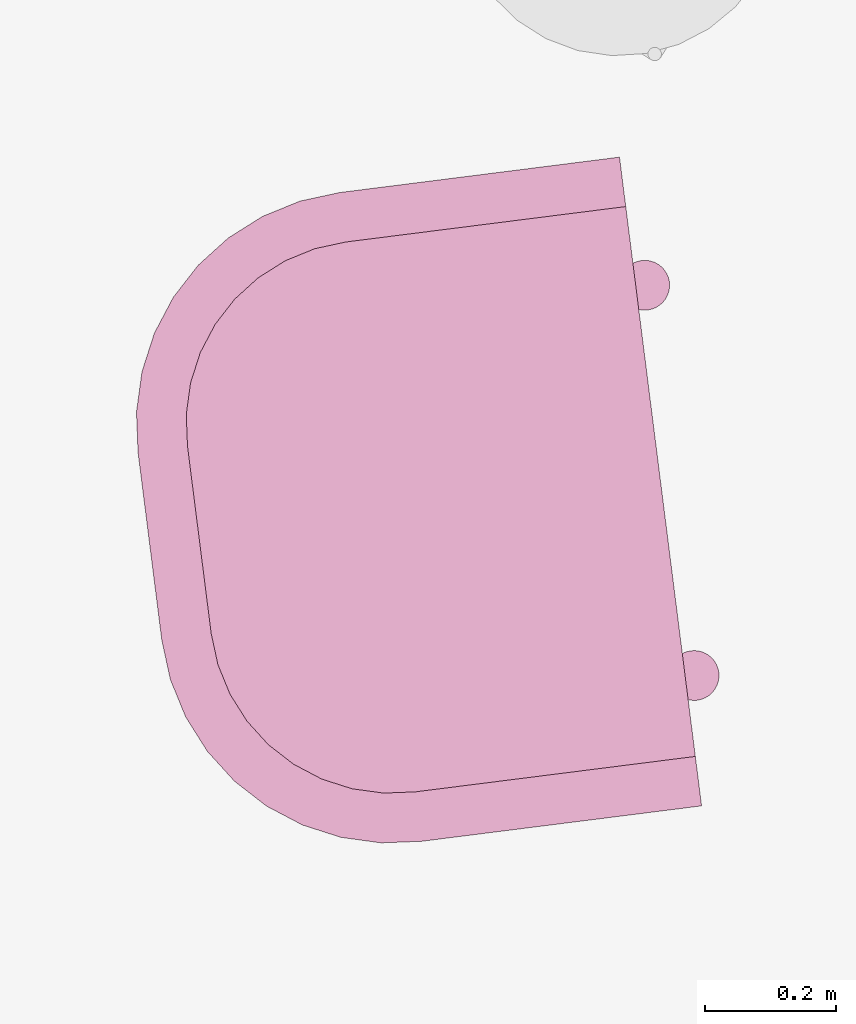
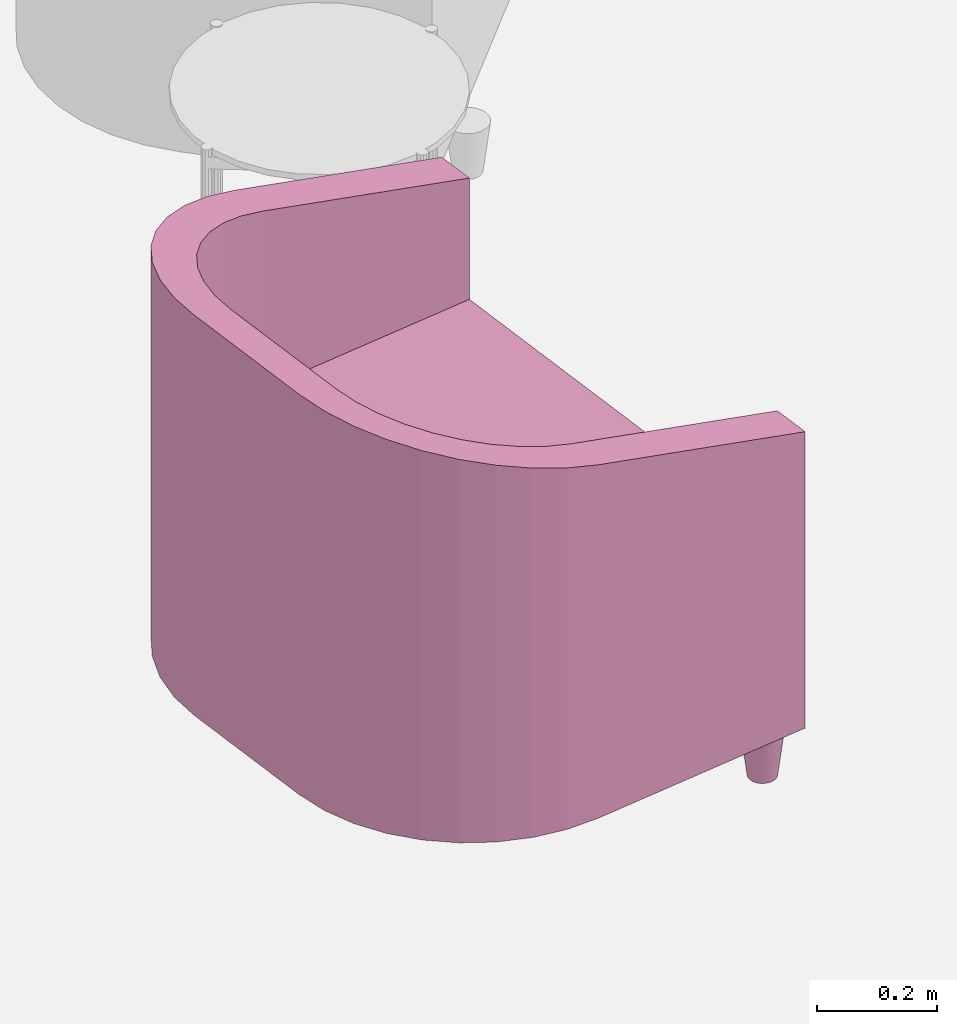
# One storey, part 20 of 36: 1 furnishing.
"""IFC2X3 building model written with IfcOpenShell, lengths in metres."""

from ifc_helpers import new_model, entity, si_unit, converted_unit, derived_unit, money_unit, direction, frame, origin_with_axes, place, context, subcontext, project, spatial, faceted_brep, source, transform, mapped, type_object, element, save


model = new_model("IFC2X3")

# Units and contexts
model_context = context("Model", 3, precision=1e-05, world=origin_with_axes(), true_north=direction((0.0, 1.0)))
body_context = subcontext(model_context, "Body", "Model", "MODEL_VIEW")
ifc_project = project(units=[si_unit("LENGTHUNIT", "METRE"), si_unit("AREAUNIT", "SQUARE_METRE"), si_unit("VOLUMEUNIT", "CUBIC_METRE"), converted_unit("PLANEANGLEUNIT", "DEGREE", entity("IfcPlaneAngleMeasure", 0.0174532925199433), si_unit("PLANEANGLEUNIT", "RADIAN"), dimensions=[0, 0, 0, 0, 0, 0, 0]), money_unit("EUR"), converted_unit("TIMEUNIT", "Year", entity("IfcTimeMeasure", 31556926.0), si_unit("TIMEUNIT", "SECOND"), dimensions=[0, 0, 1, 0, 0, 0, 0]), si_unit("MASSUNIT", "GRAM", prefix="KILO"), si_unit("THERMODYNAMICTEMPERATUREUNIT", "DEGREE_CELSIUS"), si_unit("LUMINOUSINTENSITYUNIT", "LUMEN"), si_unit("ENERGYUNIT", "JOULE", prefix="MEGA"), derived_unit("THERMALCONDUCTANCEUNIT", [(si_unit("POWERUNIT", "WATT"), 1), (si_unit("LENGTHUNIT", "METRE"), -1), (si_unit("THERMODYNAMICTEMPERATUREUNIT", "KELVIN"), -1)]), derived_unit("SPECIFICHEATCAPACITYUNIT", [(si_unit("ENERGYUNIT", "JOULE"), 1), (si_unit("MASSUNIT", "GRAM", prefix="KILO"), -1), (si_unit("THERMODYNAMICTEMPERATUREUNIT", "KELVIN"), -1)]), derived_unit("MASSDENSITYUNIT", [(si_unit("MASSUNIT", "GRAM", prefix="KILO"), 1), (si_unit("VOLUMEUNIT", "CUBIC_METRE"), -1)])], contexts=[model_context])

# Site, building, storey
site_placement = place(None, frame((-3.949935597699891, 1.740105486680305, 0.0), z_axis=(0.0, 0.0, 1.0), x_axis=(0.8799804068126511, -0.475009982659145, 0.0)))
site = spatial("IfcSite", under=ifc_project, at=site_placement, Name="Gelände", CompositionType="ELEMENT")
building_placement = place(site_placement, origin_with_axes())
building = spatial("IfcBuilding", under=site, at=building_placement, Name="Gebäude", CompositionType="ELEMENT")
storey_placement = place(building_placement, origin_with_axes())
storey = spatial("IfcBuildingStorey", under=building, at=storey_placement, Name="Erdgeschoss", CompositionType="ELEMENT", Elevation=0.0)

# Furnishing
furniture_type = type_object("IfcFurnitureType", Name="bucket chair (1)", AssemblyPlace="NOTDEFINED")
shared_shape = source(origin_with_axes(), body_context, "Body", "Brep", [
    faceted_brep([(-0.47421411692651, 0.73188933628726, 0.0), (-0.4867211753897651, 0.72968400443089, 0.1016), (-0.4873, 0.7363000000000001, 0.1016), (-0.4746, 0.7363000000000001, 0.0), (-0.473068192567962, 0.7276126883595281, 0.0), (-0.485002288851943, 0.7232690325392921, 0.1016), (-0.482195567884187, 0.71725, 0.1016), (-0.478386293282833, 0.711809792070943, 0.1016), (-0.4736902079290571, 0.707113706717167, 0.1016), (-0.4682499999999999, 0.7033044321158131, 0.1016), (-0.462230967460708, 0.700497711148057, 0.1016), (-0.45581599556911, 0.698778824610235, 0.1016), (-0.4492, 0.6982000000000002, 0.1016), (-0.44258400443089, 0.698778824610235, 0.1016), (-0.436169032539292, 0.700497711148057, 0.1016), (-0.43015, 0.703304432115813, 0.1016), (-0.4247097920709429, 0.707113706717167, 0.1016), (-0.420013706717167, 0.711809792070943, 0.1016), (-0.4162044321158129, 0.71725, 0.1016), (-0.4133977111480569, 0.7232690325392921, 0.1016), (-0.4116788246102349, 0.72968400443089, 0.1016), (-0.4111, 0.7363000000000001, 0.1016), (-0.4116788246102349, 0.7429159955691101, 0.1016), (-0.4133977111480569, 0.749330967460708, 0.1016), (-0.4162044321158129, 0.7553500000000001, 0.1016), (-0.420013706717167, 0.7607902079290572, 0.1016), (-0.4247097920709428, 0.7654862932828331, 0.1016), (-0.43015, 0.7692955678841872, 0.1016), (-0.436169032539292, 0.7721022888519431, 0.1016), (-0.44258400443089, 0.7738211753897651, 0.1016), (-0.4492, 0.7744000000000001, 0.1016), (-0.45581599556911, 0.7738211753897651, 0.1016), (-0.462230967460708, 0.7721022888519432, 0.1016), (-0.46825, 0.7692955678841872, 0.1016), (-0.4736902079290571, 0.7654862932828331, 0.1016), (-0.4783862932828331, 0.7607902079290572, 0.1016), (-0.4821955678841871, 0.7553500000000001, 0.1016), (-0.4850022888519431, 0.749330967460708, 0.1016), (-0.4867211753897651, 0.7429159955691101, 0.1016), (-0.4742141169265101, 0.7407106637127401, 0.0), (-0.4730681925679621, 0.744987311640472, 0.0), (-0.4711970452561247, 0.7490000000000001, 0.0), (-0.468657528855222, 0.7526268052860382, 0.0), (-0.4655268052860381, 0.7557575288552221, 0.0), (-0.4619, 0.7582970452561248, 0.0), (-0.457887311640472, 0.7601681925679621, 0.0), (-0.45361066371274, 0.7613141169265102, 0.0), (-0.4492, 0.7617, 0.0), (-0.44478933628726, 0.7613141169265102, 0.0), (-0.440512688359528, 0.7601681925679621, 0.0), (-0.4365, 0.7582970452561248, 0.0), (-0.4328731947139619, 0.7557575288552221, 0.0), (-0.429742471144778, 0.7526268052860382, 0.0), (-0.4272029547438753, 0.7490000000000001, 0.0), (-0.4253318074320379, 0.744987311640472, 0.0), (-0.4241858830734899, 0.7407106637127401, 0.0), (-0.4238, 0.7363000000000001, 0.0), (-0.4241858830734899, 0.73188933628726, 0.0), (-0.4253318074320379, 0.7276126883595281, 0.0), (-0.4272029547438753, 0.7236000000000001, 0.0), (-0.429742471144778, 0.719973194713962, 0.0), (-0.4328731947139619, 0.7168424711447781, 0.0), (-0.4365, 0.7143029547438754, 0.0), (-0.440512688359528, 0.712431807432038, 0.0), (-0.44478933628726, 0.71128588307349, 0.0), (-0.4492, 0.7109000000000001, 0.0), (-0.45361066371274, 0.71128588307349, 0.0), (-0.457887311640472, 0.712431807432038, 0.0), (-0.4619, 0.7143029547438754, 0.0), (-0.4655268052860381, 0.7168424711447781, 0.0), (-0.468657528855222, 0.719973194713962, 0.0), (-0.4711970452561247, 0.7236000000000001, 0.0)], [[[0, 1, 2, 3]], [[4, 5, 1, 0]], [[1, 5, 6, 7, 8, 9, 10, 11, 12, 13, 14, 15, 16, 17, 18, 19, 20, 21, 22, 23, 24, 25, 26, 27, 28, 29, 30, 31, 32, 33, 34, 35, 36, 37, 38, 2]], [[3, 2, 38, 39]], [[0, 3, 39, 40, 41, 42, 43, 44, 45, 46, 47, 48, 49, 50, 51, 52, 53, 54, 55, 56, 57, 58, 59, 60, 61, 62, 63, 64, 65, 66, 67, 68, 69, 70, 71, 4]], [[71, 6, 5, 4]], [[70, 7, 6, 71]], [[69, 8, 7, 70]], [[68, 9, 8, 69]], [[67, 10, 9, 68]], [[66, 11, 10, 67]], [[65, 12, 11, 66]], [[64, 13, 12, 65]], [[63, 14, 13, 64]], [[62, 15, 14, 63]], [[61, 16, 15, 62]], [[60, 17, 16, 61]], [[59, 18, 17, 60]], [[58, 19, 18, 59]], [[57, 20, 19, 58]], [[56, 21, 20, 57]], [[55, 22, 21, 56]], [[54, 23, 22, 55]], [[53, 24, 23, 54]], [[52, 25, 24, 53]], [[51, 26, 25, 52]], [[50, 27, 26, 51]], [[49, 28, 27, 50]], [[48, 29, 28, 49]], [[47, 30, 29, 48]], [[46, 31, 30, 47]], [[45, 32, 31, 46]], [[44, 33, 32, 45]], [[43, 34, 33, 44]], [[42, 35, 34, 43]], [[41, 36, 35, 42]], [[40, 37, 36, 41]], [[39, 38, 37, 40]]]),
    faceted_brep([(0.42418588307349, 0.73188933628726, 0.0), (0.4116788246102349, 0.72968400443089, 0.1016), (0.4111, 0.7363000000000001, 0.1016), (0.4238, 0.7363000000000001, 0.0), (0.425331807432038, 0.7276126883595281, 0.0), (0.413397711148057, 0.7232690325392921, 0.1016), (0.4162044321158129, 0.71725, 0.1016), (0.420013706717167, 0.711809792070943, 0.1016), (0.4247097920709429, 0.707113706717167, 0.1016), (0.43015, 0.7033044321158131, 0.1016), (0.436169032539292, 0.700497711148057, 0.1016), (0.44258400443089, 0.698778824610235, 0.1016), (0.4492, 0.6982000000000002, 0.1016), (0.45581599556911, 0.698778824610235, 0.1016), (0.462230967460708, 0.700497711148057, 0.1016), (0.4682499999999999, 0.703304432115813, 0.1016), (0.4736902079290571, 0.707113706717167, 0.1016), (0.478386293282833, 0.711809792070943, 0.1016), (0.482195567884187, 0.71725, 0.1016), (0.4850022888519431, 0.7232690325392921, 0.1016), (0.4867211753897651, 0.72968400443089, 0.1016), (0.4873, 0.7363000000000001, 0.1016), (0.4867211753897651, 0.7429159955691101, 0.1016), (0.4850022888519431, 0.749330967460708, 0.1016), (0.482195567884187, 0.7553500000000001, 0.1016), (0.478386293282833, 0.7607902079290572, 0.1016), (0.4736902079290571, 0.7654862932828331, 0.1016), (0.4682499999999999, 0.7692955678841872, 0.1016), (0.462230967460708, 0.7721022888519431, 0.1016), (0.45581599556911, 0.7738211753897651, 0.1016), (0.4492, 0.7744000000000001, 0.1016), (0.44258400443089, 0.7738211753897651, 0.1016), (0.436169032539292, 0.7721022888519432, 0.1016), (0.43015, 0.7692955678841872, 0.1016), (0.4247097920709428, 0.7654862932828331, 0.1016), (0.4200137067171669, 0.7607902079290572, 0.1016), (0.4162044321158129, 0.7553500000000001, 0.1016), (0.4133977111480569, 0.749330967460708, 0.1016), (0.4116788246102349, 0.7429159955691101, 0.1016), (0.4241858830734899, 0.7407106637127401, 0.0), (0.4253318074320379, 0.744987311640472, 0.0), (0.4272029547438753, 0.7490000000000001, 0.0), (0.4297424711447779, 0.7526268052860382, 0.0), (0.4328731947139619, 0.7557575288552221, 0.0), (0.4365, 0.7582970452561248, 0.0), (0.440512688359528, 0.7601681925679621, 0.0), (0.44478933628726, 0.7613141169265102, 0.0), (0.4492, 0.7617, 0.0), (0.45361066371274, 0.7613141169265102, 0.0), (0.457887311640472, 0.7601681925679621, 0.0), (0.4619, 0.7582970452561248, 0.0), (0.4655268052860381, 0.7557575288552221, 0.0), (0.468657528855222, 0.7526268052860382, 0.0), (0.4711970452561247, 0.7490000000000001, 0.0), (0.4730681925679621, 0.744987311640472, 0.0), (0.4742141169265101, 0.7407106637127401, 0.0), (0.4746, 0.7363000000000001, 0.0), (0.4742141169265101, 0.73188933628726, 0.0), (0.4730681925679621, 0.7276126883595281, 0.0), (0.4711970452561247, 0.7236000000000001, 0.0), (0.468657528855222, 0.719973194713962, 0.0), (0.4655268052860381, 0.7168424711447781, 0.0), (0.4619, 0.7143029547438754, 0.0), (0.457887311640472, 0.712431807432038, 0.0), (0.45361066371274, 0.71128588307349, 0.0), (0.4492, 0.7109000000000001, 0.0), (0.44478933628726, 0.71128588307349, 0.0), (0.440512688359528, 0.712431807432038, 0.0), (0.4365, 0.7143029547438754, 0.0), (0.4328731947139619, 0.7168424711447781, 0.0), (0.429742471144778, 0.719973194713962, 0.0), (0.4272029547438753, 0.7236000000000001, 0.0)], [[[0, 1, 2, 3]], [[4, 5, 1, 0]], [[1, 5, 6, 7, 8, 9, 10, 11, 12, 13, 14, 15, 16, 17, 18, 19, 20, 21, 22, 23, 24, 25, 26, 27, 28, 29, 30, 31, 32, 33, 34, 35, 36, 37, 38, 2]], [[3, 2, 38, 39]], [[0, 3, 39, 40, 41, 42, 43, 44, 45, 46, 47, 48, 49, 50, 51, 52, 53, 54, 55, 56, 57, 58, 59, 60, 61, 62, 63, 64, 65, 66, 67, 68, 69, 70, 71, 4]], [[71, 6, 5, 4]], [[70, 7, 6, 71]], [[69, 8, 7, 70]], [[68, 9, 8, 69]], [[67, 10, 9, 68]], [[66, 11, 10, 67]], [[65, 12, 11, 66]], [[64, 13, 12, 65]], [[63, 14, 13, 64]], [[62, 15, 14, 63]], [[61, 16, 15, 62]], [[60, 17, 16, 61]], [[59, 18, 17, 60]], [[58, 19, 18, 59]], [[57, 20, 19, 58]], [[56, 21, 20, 57]], [[55, 22, 21, 56]], [[54, 23, 22, 55]], [[53, 24, 23, 54]], [[52, 25, 24, 53]], [[51, 26, 25, 52]], [[50, 27, 26, 51]], [[49, 28, 27, 50]], [[48, 29, 28, 49]], [[47, 30, 29, 48]], [[46, 31, 30, 47]], [[45, 32, 31, 46]], [[44, 33, 32, 45]], [[43, 34, 33, 44]], [[42, 35, 34, 43]], [[41, 36, 35, 42]], [[40, 37, 36, 41]], [[39, 38, 37, 40]]]),
    faceted_brep([(-0.3258141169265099, 0.7963893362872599, 0.0), (-0.338321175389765, 0.7941840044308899, 0.1016), (-0.3388999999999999, 0.8008, 0.1016), (-0.3261999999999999, 0.8008, 0.0), (-0.3246681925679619, 0.792112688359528, 0.0), (-0.3366022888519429, 0.787769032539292, 0.1016), (-0.333795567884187, 0.78175, 0.1016), (-0.3299862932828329, 0.7763097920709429, 0.1016), (-0.325290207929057, 0.7716137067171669, 0.1016), (-0.3198499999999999, 0.767804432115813, 0.1016), (-0.3138309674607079, 0.7649977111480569, 0.1016), (-0.3074159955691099, 0.7632788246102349, 0.1016), (-0.3007999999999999, 0.7627, 0.1016), (-0.2941840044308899, 0.7632788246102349, 0.1016), (-0.2877690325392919, 0.7649977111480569, 0.1016), (-0.2817499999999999, 0.7678044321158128, 0.1016), (-0.2763097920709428, 0.7716137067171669, 0.1016), (-0.2716137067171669, 0.7763097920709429, 0.1016), (-0.2678044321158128, 0.78175, 0.1016), (-0.2649977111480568, 0.787769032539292, 0.1016), (-0.2632788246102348, 0.7941840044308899, 0.1016), (-0.2626999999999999, 0.8008, 0.1016), (-0.2632788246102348, 0.80741599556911, 0.1016), (-0.2649977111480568, 0.8138309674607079, 0.1016), (-0.2678044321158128, 0.81985, 0.1016), (-0.2716137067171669, 0.825290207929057, 0.1016), (-0.2763097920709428, 0.829986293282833, 0.1016), (-0.2817499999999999, 0.8337955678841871, 0.1016), (-0.2877690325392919, 0.8366022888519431, 0.1016), (-0.2941840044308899, 0.838321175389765, 0.1016), (-0.3007999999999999, 0.8389, 0.1016), (-0.3074159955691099, 0.838321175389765, 0.1016), (-0.3138309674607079, 0.8366022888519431, 0.1016), (-0.3198499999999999, 0.8337955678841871, 0.1016), (-0.3252902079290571, 0.829986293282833, 0.1016), (-0.329986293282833, 0.825290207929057, 0.1016), (-0.333795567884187, 0.81985, 0.1016), (-0.336602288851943, 0.8138309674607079, 0.1016), (-0.338321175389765, 0.80741599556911, 0.1016), (-0.32581411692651, 0.80521066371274, 0.0), (-0.324668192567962, 0.8094873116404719, 0.0), (-0.3227970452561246, 0.8135, 0.0), (-0.320257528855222, 0.8171268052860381, 0.0), (-0.317126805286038, 0.820257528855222, 0.0), (-0.3134999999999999, 0.8227970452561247, 0.0), (-0.3094873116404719, 0.824668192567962, 0.0), (-0.3052106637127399, 0.8258141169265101, 0.0), (-0.3007999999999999, 0.8261999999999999, 0.0), (-0.2963893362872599, 0.8258141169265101, 0.0), (-0.2921126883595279, 0.824668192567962, 0.0), (-0.2880999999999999, 0.8227970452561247, 0.0), (-0.2844731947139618, 0.820257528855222, 0.0), (-0.2813424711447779, 0.8171268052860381, 0.0), (-0.2788029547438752, 0.8135, 0.0), (-0.2769318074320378, 0.8094873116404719, 0.0), (-0.2757858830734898, 0.80521066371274, 0.0), (-0.2753999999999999, 0.8008, 0.0), (-0.2757858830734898, 0.7963893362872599, 0.0), (-0.2769318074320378, 0.792112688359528, 0.0), (-0.2788029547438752, 0.7881, 0.0), (-0.2813424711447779, 0.7844731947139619, 0.0), (-0.2844731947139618, 0.781342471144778, 0.0), (-0.2880999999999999, 0.7788029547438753, 0.0), (-0.2921126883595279, 0.7769318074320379, 0.0), (-0.2963893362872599, 0.77578588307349, 0.0), (-0.3007999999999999, 0.7754, 0.0), (-0.3052106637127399, 0.77578588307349, 0.0), (-0.3094873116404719, 0.7769318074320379, 0.0), (-0.3134999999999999, 0.7788029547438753, 0.0), (-0.317126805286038, 0.781342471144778, 0.0), (-0.3202575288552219, 0.7844731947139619, 0.0), (-0.3227970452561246, 0.7881, 0.0)], [[[0, 1, 2, 3]], [[4, 5, 1, 0]], [[1, 5, 6, 7, 8, 9, 10, 11, 12, 13, 14, 15, 16, 17, 18, 19, 20, 21, 22, 23, 24, 25, 26, 27, 28, 29, 30, 31, 32, 33, 34, 35, 36, 37, 38, 2]], [[3, 2, 38, 39]], [[0, 3, 39, 40, 41, 42, 43, 44, 45, 46, 47, 48, 49, 50, 51, 52, 53, 54, 55, 56, 57, 58, 59, 60, 61, 62, 63, 64, 65, 66, 67, 68, 69, 70, 71, 4]], [[71, 6, 5, 4]], [[70, 7, 6, 71]], [[69, 8, 7, 70]], [[68, 9, 8, 69]], [[67, 10, 9, 68]], [[66, 11, 10, 67]], [[65, 12, 11, 66]], [[64, 13, 12, 65]], [[63, 14, 13, 64]], [[62, 15, 14, 63]], [[61, 16, 15, 62]], [[60, 17, 16, 61]], [[59, 18, 17, 60]], [[58, 19, 18, 59]], [[57, 20, 19, 58]], [[56, 21, 20, 57]], [[55, 22, 21, 56]], [[54, 23, 22, 55]], [[53, 24, 23, 54]], [[52, 25, 24, 53]], [[51, 26, 25, 52]], [[50, 27, 26, 51]], [[49, 28, 27, 50]], [[48, 29, 28, 49]], [[47, 30, 29, 48]], [[46, 31, 30, 47]], [[45, 32, 31, 46]], [[44, 33, 32, 45]], [[43, 34, 33, 44]], [[42, 35, 34, 43]], [[41, 36, 35, 42]], [[40, 37, 36, 41]], [[39, 38, 37, 40]]]),
    faceted_brep([(0.2757858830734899, 0.7963893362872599, 0.0), (0.2632788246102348, 0.7941840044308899, 0.1016), (0.2626999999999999, 0.8008, 0.1016), (0.2753999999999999, 0.8008, 0.0), (0.2769318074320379, 0.792112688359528, 0.0), (0.2649977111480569, 0.787769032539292, 0.1016), (0.2678044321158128, 0.78175, 0.1016), (0.2716137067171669, 0.7763097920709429, 0.1016), (0.2763097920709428, 0.7716137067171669, 0.1016), (0.2817499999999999, 0.767804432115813, 0.1016), (0.2877690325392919, 0.7649977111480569, 0.1016), (0.2941840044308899, 0.7632788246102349, 0.1016), (0.3007999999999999, 0.7627, 0.1016), (0.3074159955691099, 0.7632788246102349, 0.1016), (0.3138309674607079, 0.7649977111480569, 0.1016), (0.3198499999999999, 0.7678044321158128, 0.1016), (0.325290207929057, 0.7716137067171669, 0.1016), (0.3299862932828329, 0.7763097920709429, 0.1016), (0.333795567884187, 0.78175, 0.1016), (0.336602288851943, 0.787769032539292, 0.1016), (0.338321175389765, 0.7941840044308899, 0.1016), (0.3388999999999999, 0.8008, 0.1016), (0.338321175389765, 0.80741599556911, 0.1016), (0.336602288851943, 0.8138309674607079, 0.1016), (0.333795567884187, 0.81985, 0.1016), (0.3299862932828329, 0.825290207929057, 0.1016), (0.3252902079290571, 0.829986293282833, 0.1016), (0.3198499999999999, 0.8337955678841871, 0.1016), (0.3138309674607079, 0.8366022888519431, 0.1016), (0.3074159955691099, 0.838321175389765, 0.1016), (0.3007999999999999, 0.8389, 0.1016), (0.2941840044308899, 0.838321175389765, 0.1016), (0.2877690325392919, 0.8366022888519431, 0.1016), (0.2817499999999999, 0.8337955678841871, 0.1016), (0.2763097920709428, 0.829986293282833, 0.1016), (0.2716137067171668, 0.825290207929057, 0.1016), (0.2678044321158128, 0.81985, 0.1016), (0.2649977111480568, 0.8138309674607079, 0.1016), (0.2632788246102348, 0.80741599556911, 0.1016), (0.2757858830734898, 0.80521066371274, 0.0), (0.2769318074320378, 0.8094873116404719, 0.0), (0.2788029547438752, 0.8135, 0.0), (0.2813424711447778, 0.8171268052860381, 0.0), (0.2844731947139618, 0.820257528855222, 0.0), (0.2880999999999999, 0.8227970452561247, 0.0), (0.2921126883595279, 0.824668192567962, 0.0), (0.2963893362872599, 0.8258141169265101, 0.0), (0.3007999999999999, 0.8261999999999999, 0.0), (0.3052106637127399, 0.8258141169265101, 0.0), (0.3094873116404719, 0.824668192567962, 0.0), (0.3134999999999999, 0.8227970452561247, 0.0), (0.317126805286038, 0.820257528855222, 0.0), (0.3202575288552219, 0.8171268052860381, 0.0), (0.3227970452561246, 0.8135, 0.0), (0.324668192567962, 0.8094873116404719, 0.0), (0.32581411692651, 0.80521066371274, 0.0), (0.3261999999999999, 0.8008, 0.0), (0.32581411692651, 0.7963893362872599, 0.0), (0.324668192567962, 0.792112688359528, 0.0), (0.3227970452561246, 0.7881, 0.0), (0.3202575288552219, 0.7844731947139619, 0.0), (0.317126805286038, 0.781342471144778, 0.0), (0.3134999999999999, 0.7788029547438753, 0.0), (0.3094873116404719, 0.7769318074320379, 0.0), (0.3052106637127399, 0.77578588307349, 0.0), (0.3007999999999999, 0.7754, 0.0), (0.2963893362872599, 0.77578588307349, 0.0), (0.2921126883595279, 0.7769318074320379, 0.0), (0.2880999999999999, 0.7788029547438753, 0.0), (0.2844731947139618, 0.781342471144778, 0.0), (0.2813424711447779, 0.7844731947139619, 0.0), (0.2788029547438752, 0.7881, 0.0)], [[[0, 1, 2, 3]], [[4, 5, 1, 0]], [[1, 5, 6, 7, 8, 9, 10, 11, 12, 13, 14, 15, 16, 17, 18, 19, 20, 21, 22, 23, 24, 25, 26, 27, 28, 29, 30, 31, 32, 33, 34, 35, 36, 37, 38, 2]], [[3, 2, 38, 39]], [[0, 3, 39, 40, 41, 42, 43, 44, 45, 46, 47, 48, 49, 50, 51, 52, 53, 54, 55, 56, 57, 58, 59, 60, 61, 62, 63, 64, 65, 66, 67, 68, 69, 70, 71, 4]], [[71, 6, 5, 4]], [[70, 7, 6, 71]], [[69, 8, 7, 70]], [[68, 9, 8, 69]], [[67, 10, 9, 68]], [[66, 11, 10, 67]], [[65, 12, 11, 66]], [[64, 13, 12, 65]], [[63, 14, 13, 64]], [[62, 15, 14, 63]], [[61, 16, 15, 62]], [[60, 17, 16, 61]], [[59, 18, 17, 60]], [[58, 19, 18, 59]], [[57, 20, 19, 58]], [[56, 21, 20, 57]], [[55, 22, 21, 56]], [[54, 23, 22, 55]], [[53, 24, 23, 54]], [[52, 25, 24, 53]], [[51, 26, 25, 52]], [[50, 27, 26, 51]], [[49, 28, 27, 50]], [[48, 29, 28, 49]], [[47, 30, 29, 48]], [[46, 31, 30, 47]], [[45, 32, 31, 46]], [[44, 33, 32, 45]], [[43, 34, 33, 44]], [[42, 35, 34, 43]], [[41, 36, 35, 42]], [[40, 37, 36, 41]], [[39, 38, 37, 40]]]),
    faceted_brep([(0.5, 0.7871, 0.1016), (0.5, 0.7871, 0.7034971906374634), (0.5, 0.3556, 0.8191172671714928), (0.5, 0.3556, 0.1016), (0.4238, 0.7871, 0.1016), (0.4238, 0.7871, 0.7034971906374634), (0.4238, 0.3556000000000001, 0.8191172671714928), (0.4195552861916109, 0.3070826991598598, 0.8321174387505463), (0.4069501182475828, 0.2600395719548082, 0.8447226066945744), (0.3863674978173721, 0.2159000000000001, 0.8565497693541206), (0.3584328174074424, 0.176005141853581, 0.8672395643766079), (0.323994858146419, 0.1415671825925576, 0.8764671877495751), (0.2841, 0.1136325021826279, 0.8839522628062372), (0.2399604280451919, 0.09304988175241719, 0.8894673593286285), (0.1929173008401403, 0.08044471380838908, 0.8928449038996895), (0.1444, 0.0762, 0.8939822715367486), (-0.1444000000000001, 0.07620000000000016, 0.8939822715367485), (-0.1929173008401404, 0.08044471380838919, 0.8928449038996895), (-0.2399604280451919, 0.0930498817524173, 0.8894673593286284), (-0.2841, 0.1136325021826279, 0.8839522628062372), (-0.3239948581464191, 0.1415671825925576, 0.8764671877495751), (-0.3584328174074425, 0.176005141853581, 0.8672395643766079), (-0.3863674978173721, 0.2159000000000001, 0.8565497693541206), (-0.4069501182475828, 0.2600395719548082, 0.8447226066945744), (-0.4195552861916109, 0.3070826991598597, 0.8321174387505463), (-0.4238, 0.3556, 0.8191172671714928), (-0.4238, 0.7871, 0.7034971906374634), (-0.5, 0.7871, 0.7034971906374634), (-0.4999999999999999, 0.3555999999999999, 0.8191172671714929), (-0.494597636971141, 0.2938507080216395, 0.8356629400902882), (-0.4785546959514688, 0.2339776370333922, 0.8517058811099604), (-0.4523586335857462, 0.1778, 0.8667586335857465), (-0.4168054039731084, 0.1270247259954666, 0.8803638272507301), (-0.3729752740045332, 0.08319459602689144, 0.8921080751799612), (-0.3221999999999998, 0.04764136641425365, 0.9016345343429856), (-0.2660223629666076, 0.02144530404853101, 0.9086537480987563), (-0.2061492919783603, 0.005402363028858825, 0.9129524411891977), (-0.1444, 0.0, 0.9144000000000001), (0.0, 0.0, 0.9144000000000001), (0.1444000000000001, 0.0, 0.9144000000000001), (0.2061492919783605, 0.005402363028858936, 0.9129524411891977), (0.2660223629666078, 0.02144530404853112, 0.9086537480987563), (0.3222, 0.04764136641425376, 0.9016345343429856), (0.3729752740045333, 0.08319459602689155, 0.892108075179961), (0.4168054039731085, 0.1270247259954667, 0.8803638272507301), (0.4523586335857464, 0.1778000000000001, 0.8667586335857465), (0.4785546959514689, 0.2339776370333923, 0.8517058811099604), (0.4945976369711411, 0.2938507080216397, 0.8356629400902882), (0.4945976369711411, 0.2938507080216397, 0.1016), (0.4785546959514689, 0.2339776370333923, 0.1016), (0.4523586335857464, 0.1778000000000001, 0.1016), (0.4168054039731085, 0.1270247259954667, 0.1016), (0.3729752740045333, 0.08319459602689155, 0.1016), (0.3222, 0.04764136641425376, 0.1016), (0.2660223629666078, 0.02144530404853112, 0.1016), (0.2061492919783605, 0.005402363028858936, 0.1016), (0.1444000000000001, 0.0, 0.1016), (0.0, 0.0, 0.1016), (-0.1444, 0.0, 0.1016), (-0.2061492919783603, 0.005402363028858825, 0.1016), (-0.2660223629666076, 0.02144530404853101, 0.1016), (-0.3221999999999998, 0.04764136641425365, 0.1016), (-0.3729752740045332, 0.08319459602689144, 0.1016), (-0.4168054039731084, 0.1270247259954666, 0.1016), (-0.4523586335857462, 0.1778, 0.1016), (-0.4785546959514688, 0.2339776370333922, 0.1016), (-0.494597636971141, 0.2938507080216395, 0.1016), (-0.4999999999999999, 0.3555999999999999, 0.1016), (-0.5, 0.7871, 0.1016), (-0.4238, 0.7871, 0.1016), (-0.4238, 0.3556, 0.1016), (-0.4195552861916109, 0.3070826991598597, 0.1016), (-0.4069501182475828, 0.2600395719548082, 0.1016), (-0.3863674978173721, 0.2159000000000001, 0.1016), (-0.3584328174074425, 0.176005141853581, 0.1016), (-0.3239948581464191, 0.1415671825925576, 0.1016), (-0.2841, 0.1136325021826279, 0.1016), (-0.2399604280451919, 0.0930498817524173, 0.1016), (-0.1929173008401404, 0.08044471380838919, 0.1016), (-0.1444000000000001, 0.07620000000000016, 0.1016), (0.1444, 0.0762, 0.1016), (0.1929173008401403, 0.08044471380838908, 0.1016), (0.2399604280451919, 0.09304988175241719, 0.1016), (0.2841, 0.1136325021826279, 0.1016), (0.323994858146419, 0.1415671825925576, 0.1016), (0.3584328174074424, 0.176005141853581, 0.1016), (0.3863674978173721, 0.2159000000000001, 0.1016), (0.4069501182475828, 0.2600395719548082, 0.1016), (0.4195552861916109, 0.3070826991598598, 0.1016), (0.4238, 0.3556000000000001, 0.1016)], [[[0, 1, 2, 3]], [[4, 5, 1, 0]], [[1, 5, 6, 7, 8, 9, 10, 11, 12, 13, 14, 15, 16, 17, 18, 19, 20, 21, 22, 23, 24, 25, 26, 27, 28, 29, 30, 31, 32, 33, 34, 35, 36, 37, 38, 39, 40, 41, 42, 43, 44, 45, 46, 47, 2]], [[3, 2, 47, 48]], [[0, 3, 48, 49, 50, 51, 52, 53, 54, 55, 56, 57, 58, 59, 60, 61, 62, 63, 64, 65, 66, 67, 68, 69, 70, 71, 72, 73, 74, 75, 76, 77, 78, 79, 80, 81, 82, 83, 84, 85, 86, 87, 88, 89, 4]], [[89, 6, 5, 4]], [[88, 7, 6, 89]], [[87, 8, 7, 88]], [[86, 9, 8, 87]], [[85, 10, 9, 86]], [[84, 11, 10, 85]], [[83, 12, 11, 84]], [[82, 13, 12, 83]], [[81, 14, 13, 82]], [[80, 15, 14, 81]], [[79, 16, 15, 80]], [[78, 17, 16, 79]], [[77, 18, 17, 78]], [[76, 19, 18, 77]], [[75, 20, 19, 76]], [[74, 21, 20, 75]], [[73, 22, 21, 74]], [[72, 23, 22, 73]], [[71, 24, 23, 72]], [[70, 25, 24, 71]], [[69, 26, 25, 70]], [[68, 27, 26, 69]], [[67, 28, 27, 68]], [[66, 29, 28, 67]], [[65, 30, 29, 66]], [[64, 31, 30, 65]], [[63, 32, 31, 64]], [[62, 33, 32, 63]], [[61, 34, 33, 62]], [[60, 35, 34, 61]], [[59, 36, 35, 60]], [[58, 37, 36, 59]], [[57, 38, 37, 58]], [[56, 39, 38, 57]], [[55, 40, 39, 56]], [[54, 41, 40, 55]], [[53, 42, 41, 54]], [[52, 43, 42, 53]], [[51, 44, 43, 52]], [[50, 45, 44, 51]], [[49, 46, 45, 50]], [[48, 47, 46, 49]]]),
    faceted_brep([(0.4238, 0.7871, 0.1016), (0.4238, 0.7871, 0.4572000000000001), (0.4238, 0.3556000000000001, 0.4572000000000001), (0.4238, 0.3556000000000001, 0.1016), (-0.4238, 0.7871, 0.1016), (-0.4238, 0.7871, 0.4572000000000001), (-0.4238, 0.3556, 0.4572000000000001), (-0.4195552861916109, 0.3070826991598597, 0.4572000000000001), (-0.4069501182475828, 0.2600395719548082, 0.4572000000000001), (-0.3863674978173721, 0.2159000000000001, 0.4572000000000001), (-0.3584328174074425, 0.176005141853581, 0.4572000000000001), (-0.3239948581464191, 0.1415671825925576, 0.4572000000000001), (-0.2841, 0.1136325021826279, 0.4572000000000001), (-0.2399604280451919, 0.0930498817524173, 0.4572000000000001), (-0.1929173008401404, 0.08044471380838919, 0.4572000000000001), (-0.1444000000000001, 0.07620000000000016, 0.4572000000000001), (0.1444, 0.0762, 0.4572000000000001), (0.1929173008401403, 0.08044471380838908, 0.4572000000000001), (0.2399604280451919, 0.09304988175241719, 0.4572000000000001), (0.2841, 0.1136325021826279, 0.4572000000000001), (0.323994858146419, 0.1415671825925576, 0.4572000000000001), (0.3584328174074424, 0.176005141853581, 0.4572000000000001), (0.3863674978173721, 0.2159000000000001, 0.4572000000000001), (0.4069501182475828, 0.2600395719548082, 0.4572000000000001), (0.4195552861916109, 0.3070826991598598, 0.4572000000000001), (0.4195552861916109, 0.3070826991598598, 0.1016), (0.4069501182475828, 0.2600395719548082, 0.1016), (0.3863674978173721, 0.2159000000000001, 0.1016), (0.3584328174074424, 0.176005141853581, 0.1016), (0.323994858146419, 0.1415671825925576, 0.1016), (0.2841, 0.1136325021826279, 0.1016), (0.2399604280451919, 0.09304988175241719, 0.1016), (0.1929173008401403, 0.08044471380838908, 0.1016), (0.1444, 0.0762, 0.1016), (-0.1444000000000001, 0.07620000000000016, 0.1016), (-0.1929173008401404, 0.08044471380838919, 0.1016), (-0.2399604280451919, 0.0930498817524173, 0.1016), (-0.2841, 0.1136325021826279, 0.1016), (-0.3239948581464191, 0.1415671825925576, 0.1016), (-0.3584328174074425, 0.176005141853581, 0.1016), (-0.3863674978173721, 0.2159000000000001, 0.1016), (-0.4069501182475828, 0.2600395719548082, 0.1016), (-0.4195552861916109, 0.3070826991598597, 0.1016), (-0.4238, 0.3556, 0.1016)], [[[0, 1, 2, 3]], [[4, 5, 1, 0]], [[1, 5, 6, 7, 8, 9, 10, 11, 12, 13, 14, 15, 16, 17, 18, 19, 20, 21, 22, 23, 24, 2]], [[3, 2, 24, 25]], [[0, 3, 25, 26, 27, 28, 29, 30, 31, 32, 33, 34, 35, 36, 37, 38, 39, 40, 41, 42, 43, 4]], [[43, 6, 5, 4]], [[42, 7, 6, 43]], [[41, 8, 7, 42]], [[40, 9, 8, 41]], [[39, 10, 9, 40]], [[38, 11, 10, 39]], [[37, 12, 11, 38]], [[36, 13, 12, 37]], [[35, 14, 13, 36]], [[34, 15, 14, 35]], [[33, 16, 15, 34]], [[32, 17, 16, 33]], [[31, 18, 17, 32]], [[30, 19, 18, 31]], [[29, 20, 19, 30]], [[28, 21, 20, 29]], [[27, 22, 21, 28]], [[26, 23, 22, 27]], [[25, 24, 23, 26]]]),
])
furnishing_placement = place(storey_placement, frame((22.48601829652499, 2.169700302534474, 0.0), z_axis=(0.0, 0.0, 1.0), x_axis=(0.5817211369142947, -0.8133882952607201, 0.0)))
element("IfcFurnishingElement", 1, at=furnishing_placement, inside=storey, type_object=furniture_type, Name="Objekt-0069", ObjectType="FURNITURE", context=body_context, shape_type="MappedRepresentation", body=[
    mapped(shared_shape, transform((0.0, 0.0, 0.0))),
])

save(model, "model.ifc")
